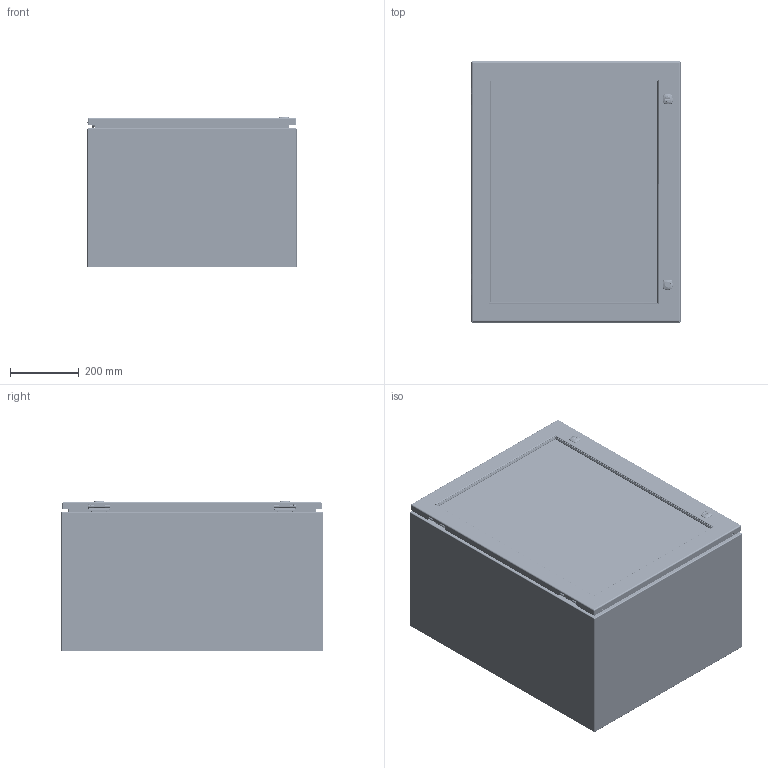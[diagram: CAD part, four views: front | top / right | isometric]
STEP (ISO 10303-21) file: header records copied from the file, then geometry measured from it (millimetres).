
FILE_DESCRIPTION(/* description */ ('5412ESW 30" x 24" x 16" Assembly'),/* implementation_level */ '2;1');
FILE_NAME(/* name */ 'C:\Vault_Workspace\Inventor_Dwg\BoxCad\Result\5412ESW302416\e-mail\3D\5412ESW302416.stp',/* time_stamp */ '2021-09-29T13:25:21-04:00',/* author */ ('BoxCad'),/* organization */ (''),/* preprocessor_version */ 'ST-DEVELOPER v18.1',/* originating_system */ 'Autodesk Inventor 2020',/* authorisation */ '');
FILE_SCHEMA (('AUTOMOTIVE_DESIGN { 1 0 10303 214 3 1 1 }'));
Products named in the file (61): 5412ESW302416; 5412ESW302416B; 5412ESW302416B-P; STK-Q-16005; STUD_M6 x 16mm; STK-S-00100; STK-Q-07610; 881SP3024G; 881SP3024G-P; STK-Q-07310; 5412ESW302416C; 5412ESW302416C-P; 5412ESW302416G; STK-K-09800; STK-K-09800-2; STK-Q-33014; STK-Q-90398; STK-Q-40095; STK-Q-63410; 5412ESW302416LX; 5412ESW302416LXG; 5412ESW302416_STK_G_02705; STK-Q-16052; 5412ESW302416_STK-A-60703; STK-Q-60703-2; STK-Q-60703-1; STK-Q-60703-3; STK-Q-60703-4; STK-Q-60702-A; STK-Q-60703-B; STK-Q-60703-C; STK-Q-60701; STK-Q-60701_1; STK-Q-60701_2; STK-Q-60701_3; STK-Q-60701_4; STK-Q-60701_5; STK-Q-60701_6; STK-Q-60701_7; STK-Q-60701_8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
Assembly tree (137 placements, depth 5):
  5412ESW302416
    5412ESW302416B
      5412ESW302416B-P
      STK-Q-16005  x4
      STK-P-02400S
      STUD_M6 x 16mm
      STK-S-00100
    STK-Q-07610  x4
    881SP3024G
      881SP3024G-P
    STK-Q-07310  x4
    5412ESW302416C
      5412ESW302416C-P
      5412ESW302416G
      STK-K-09800
        STK-Q-33014
        STK-Q-90398
        STK-Q-40095  x2
        STK-Q-63410  x2
      STK-K-09800-2
        STK-Q-33014
        STK-Q-90398
        STK-Q-40095  x2
        STK-Q-63410  x2
      5412ESW302416LX
      5412ESW302416LXG
      5412ESW302416_STK_G_02705
      STK-Q-16052  x14
      5412ESW302416_STK-A-60703
        STK-Q-60703-2
          STK-Q-60702-A
          STK-Q-60703-B
          STK-Q-60703-C
        STK-Q-60703-1
          STK-Q-60702-A
          STK-Q-60703-B
          STK-Q-60703-C
        STK-Q-60703-3
          STK-Q-60702-A
          STK-Q-60703-B
          STK-Q-60703-C
        STK-Q-60703-4
          STK-Q-60702-A
          STK-Q-60703-B
          STK-Q-60703-C
      STK-Q-60701
        STK-Q-60701-A
        STK-Q-60701-B
        STK-Q-60701-C
      STK-Q-60701_1
        STK-Q-60701-A
        STK-Q-60701-B
        STK-Q-60701-C
      STK-Q-60701_2
        STK-Q-60701-A
        STK-Q-60701-B
        STK-Q-60701-C
      STK-Q-60701_3
        STK-Q-60701-A
        STK-Q-60701-B
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Bounding box: 609.67 x 762 x 439.55 mm (x, y, z)
Volume: 6473395.6 mm3; surface area: 5798254.8 mm2
Topology: 109 solids, 109 shells, 21949 faces, 59596 edges, 38311 vertices
Faces by surface type: bspline 7946, plane 7396, cylinder 5260, torus 701, sphere 368, cone 278
Full cylindrical faces by diameter (mm): 0 x1, 0.75 x19, 0.762 x19, 1 x8, 1.1 x8, 3.2 x4, 4.4 x8, 4.5 x14, 4.521 x8, 4.75 x2, 4.85 x16, 4.95 x4, 5 x14, 5.1 x80, 5.156 x4, 5.6 x2, 5.9 x29, 6.65 x4, 6.85 x16, 6.894 x8, 7 x28, 7.3 x2, 7.366 x18, 7.9 x4, 8 x32, 8.382 x2, 9 x14, 9.5 x14, 9.6 x2, 9.906 x4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
Entity records: 201864 total; most frequent: CARTESIAN_POINT 80833, ORIENTED_EDGE 27524, DIRECTION 20173, EDGE_CURVE 13762, VERTEX_POINT 8738, AXIS2_PLACEMENT_3D 6979, LINE 6215, VECTOR 6215
